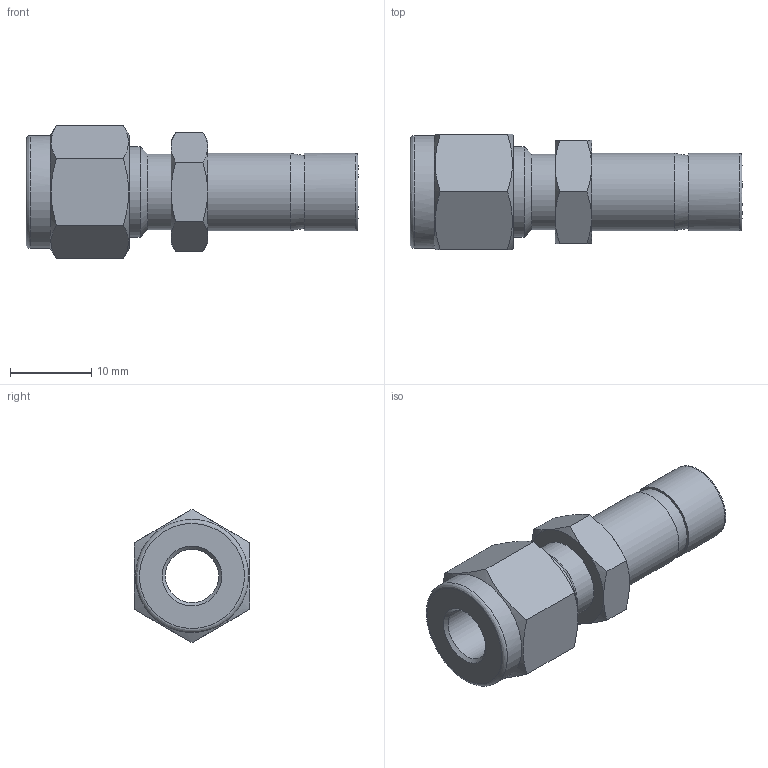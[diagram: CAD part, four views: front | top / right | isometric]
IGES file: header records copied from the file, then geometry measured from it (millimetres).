
Global section: file name: SR-4-6; native system: Autodesk Inventor 2016; preprocessor: unknown; author: DESIGNPC2; date: 20151111.165907; units: millimetre
Bounding box: 40.83 x 14.2 x 16.4 mm (x, y, z)
Volume: 3095.3 mm3; surface area: 2723.1 mm2
Topology: 1 solids, 1 shells, 43 faces, 117 edges, 80 vertices
Faces by surface type: bspline 43
